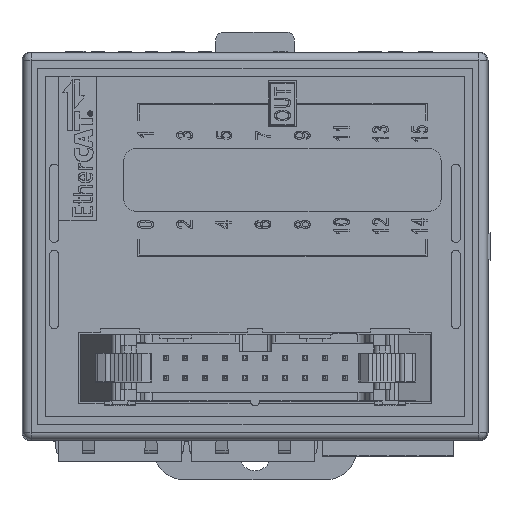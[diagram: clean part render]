
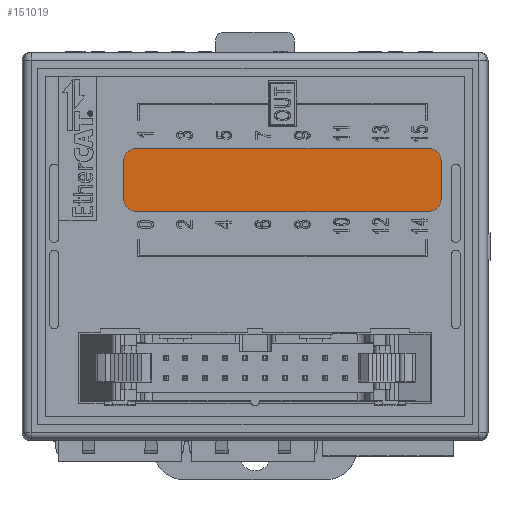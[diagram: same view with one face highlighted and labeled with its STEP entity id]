
A CAD part, top view. The second image highlights one B-rep face of the part: STEP entity #151019.
In plain terms, the highlighted planar face has unit normal (0, 0, 1).
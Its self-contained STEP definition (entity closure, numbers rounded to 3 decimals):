
#44247=DIRECTION('',(-1.,0.,0.));
#44248=VECTOR('',#44247,37.5);
#44249=CARTESIAN_POINT('',(22.25,12.5,30.9));
#44250=LINE('',#44249,#44248);
#44251=CARTESIAN_POINT('',(22.25,11.,30.9));
#44252=DIRECTION('',(0.,0.,1.));
#44253=DIRECTION('',(1.,0.,0.));
#44254=AXIS2_PLACEMENT_3D('',#44251,#44252,#44253);
#44256=DIRECTION('',(0.,1.,0.));
#44257=VECTOR('',#44256,5.);
#44258=CARTESIAN_POINT('',(23.75,6.,30.9));
#44259=LINE('',#44258,#44257);
#44260=CARTESIAN_POINT('',(22.25,6.,30.9));
#44261=DIRECTION('',(0.,0.,1.));
#44262=DIRECTION('',(0.,-1.,0.));
#44263=AXIS2_PLACEMENT_3D('',#44260,#44261,#44262);
#44265=DIRECTION('',(1.,0.,0.));
#44266=VECTOR('',#44265,37.5);
#44267=CARTESIAN_POINT('',(-15.25,4.5,30.9));
#44268=LINE('',#44267,#44266);
#44269=CARTESIAN_POINT('',(-15.25,6.,30.9));
#44270=DIRECTION('',(0.,0.,1.));
#44271=DIRECTION('',(-1.,0.,0.));
#44272=AXIS2_PLACEMENT_3D('',#44269,#44270,#44271);
#44274=DIRECTION('',(0.,-1.,0.));
#44275=VECTOR('',#44274,5.);
#44276=CARTESIAN_POINT('',(-16.75,11.,30.9));
#44277=LINE('',#44276,#44275);
#44278=CARTESIAN_POINT('',(-15.25,11.,30.9));
#44279=DIRECTION('',(0.,0.,1.));
#44280=DIRECTION('',(0.,1.,0.));
#44281=AXIS2_PLACEMENT_3D('',#44278,#44279,#44280);
#55068=CARTESIAN_POINT('',(-15.25,12.5,30.9));
#55069=VERTEX_POINT('',#55068);
#55070=CARTESIAN_POINT('',(22.25,12.5,30.9));
#55071=VERTEX_POINT('',#55070);
#55072=CARTESIAN_POINT('',(23.75,11.,30.9));
#55073=VERTEX_POINT('',#55072);
#55074=CARTESIAN_POINT('',(23.75,6.,30.9));
#55075=VERTEX_POINT('',#55074);
#55076=CARTESIAN_POINT('',(22.25,4.5,30.9));
#55077=VERTEX_POINT('',#55076);
#55078=CARTESIAN_POINT('',(-15.25,4.5,30.9));
#55079=VERTEX_POINT('',#55078);
#55080=CARTESIAN_POINT('',(-16.75,6.,30.9));
#55081=VERTEX_POINT('',#55080);
#55082=CARTESIAN_POINT('',(-16.75,11.,30.9));
#55083=VERTEX_POINT('',#55082);
#151004=CARTESIAN_POINT('',(3.5,8.5,30.9));
#151005=DIRECTION('',(0.,0.,1.));
#151006=DIRECTION('',(1.,0.,0.));
#151007=AXIS2_PLACEMENT_3D('',#151004,#151005,#151006);
#151008=PLANE('',#151007);
#151009=ORIENTED_EDGE('',*,*,#150844,.F.);
#151010=ORIENTED_EDGE('',*,*,#150866,.F.);
#151011=ORIENTED_EDGE('',*,*,#150887,.F.);
#151012=ORIENTED_EDGE('',*,*,#150908,.F.);
#151013=ORIENTED_EDGE('',*,*,#150929,.F.);
#151014=ORIENTED_EDGE('',*,*,#150950,.F.);
#151015=ORIENTED_EDGE('',*,*,#150971,.F.);
#151016=ORIENTED_EDGE('',*,*,#150991,.F.);
#151017=EDGE_LOOP('',(#151009,#151010,#151011,#151012,#151013,#151014,#151015,
#151016));
#151018=FACE_OUTER_BOUND('',#151017,.F.);
#151019=ADVANCED_FACE('',(#151018),#151008,.T.);
#44255=CIRCLE('',#44254,1.5);
#44264=CIRCLE('',#44263,1.5);
#44273=CIRCLE('',#44272,1.5);
#44282=CIRCLE('',#44281,1.5);
#150844=EDGE_CURVE('',#55071,#55069,#44250,.T.);
#150866=EDGE_CURVE('',#55073,#55071,#44255,.T.);
#150887=EDGE_CURVE('',#55075,#55073,#44259,.T.);
#150908=EDGE_CURVE('',#55077,#55075,#44264,.T.);
#150929=EDGE_CURVE('',#55079,#55077,#44268,.T.);
#150950=EDGE_CURVE('',#55081,#55079,#44273,.T.);
#150971=EDGE_CURVE('',#55083,#55081,#44277,.T.);
#150991=EDGE_CURVE('',#55069,#55083,#44282,.T.);
